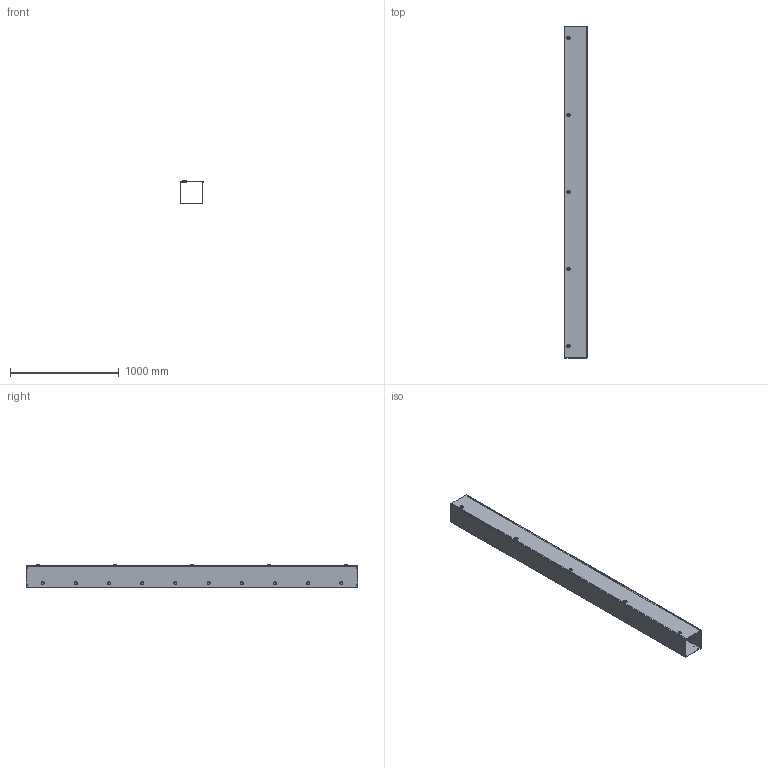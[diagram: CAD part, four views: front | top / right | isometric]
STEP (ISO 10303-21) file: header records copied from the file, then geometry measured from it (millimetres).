
FILE_DESCRIPTION(/* description */ ('1100SS 120" x 8" x 8" Assembly'),/* implementation_level */ '2;1');
FILE_NAME(/* name */ '1100SS8120.stp',/* time_stamp */ '2024-08-06T23:16:33-04:00',/* author */ ('BoxCad'),/* organization */ (''),/* preprocessor_version */ 'ST-DEVELOPER v20',/* originating_system */ 'Autodesk Inventor 2024',/* authorisation */ '');
FILE_SCHEMA (('AUTOMOTIVE_DESIGN { 1 0 10303 214 3 1 1 }'));
Products named in the file (14): 1100SS8120; 1100SS8120B; 1100SS8120B-P; 1100SS8120C; 1100SS8120C-P; STK-P-02400S; STK-Q-33361; STK-A-880SCQ1-SL-1; STK-A-880SCQ1-SL-2; STK-A-880SCQ1-SL-3; STK-A-880SCQ1-SL-4; STK-A-880SCQ1-SL-5; STK-Q-78631; STK-Q-78644
Assembly tree (26 placements, depth 4):
  1100SS8120
    1100SS8120B
      1100SS8120B-P
      STK-P-02400S
    1100SS8120C
      1100SS8120C-P
      STK-P-02400S
      STK-Q-33361  x5
      STK-A-880SCQ1-SL-1
        STK-Q-78631
        STK-Q-78644
      STK-A-880SCQ1-SL-2
        STK-Q-78631
        STK-Q-78644
      STK-A-880SCQ1-SL-3
        STK-Q-78631
        STK-Q-78644
      STK-A-880SCQ1-SL-4
        STK-Q-78631
        STK-Q-78644
      STK-A-880SCQ1-SL-5
        STK-Q-78631
        STK-Q-78644
Bounding box: 213.51 x 3048 x 209.2 mm (x, y, z)
Volume: 3689135.7 mm3; surface area: 5294685.1 mm2
Topology: 17 solids, 17 shells, 8490 faces, 21751 edges, 13155 vertices
Faces by surface type: plane 3215, cylinder 2285, bspline 2065, torus 530, sphere 395
Full cylindrical faces by diameter (mm): 0.762 x5, 7.137 x20, 30 x5
Entity records: 74182 total; most frequent: CARTESIAN_POINT 20695, ORIENTED_EDGE 11488, DIRECTION 10257, EDGE_CURVE 5744, VERTEX_POINT 3599, AXIS2_PLACEMENT_3D 3437, LINE 3383, VECTOR 3383
